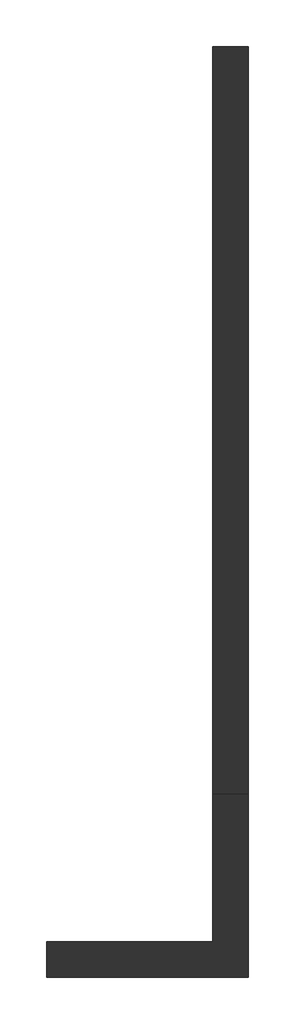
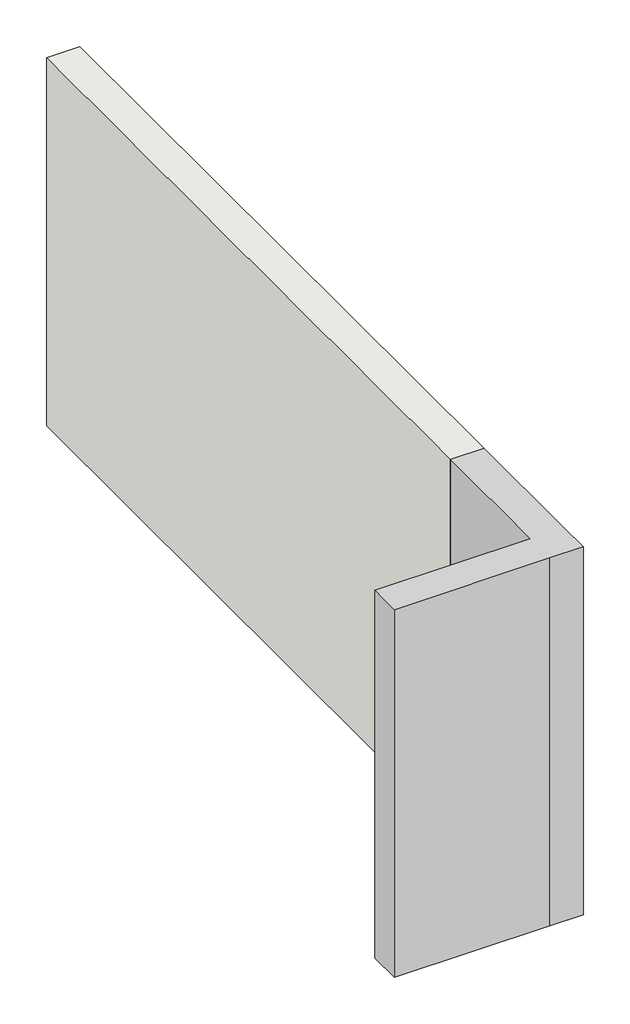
# One storey: 1 column, 1 wall.
"""IFC4 building model written with IfcOpenShell, lengths in millimetres."""

from ifc_helpers import new_model, si_unit, frame, origin, place, context, project, spatial, polyline, outline, extrude, transform, mapped, element, save
from components import ybz16_ybz16_38908f3c

model = new_model("IFC4")

# Units and contexts
model_context = context("Model", 3, world=origin())
ifc_project = project(units=[si_unit("LENGTHUNIT", "METRE", prefix="MILLI")], contexts=[model_context])

# Site, building, storey
site = spatial("IfcSite", under=ifc_project)
building = spatial("IfcBuilding", under=site)
storey = spatial("IfcBuildingStorey", under=building, Name="标高 2", Elevation=4000.0)

# Column
placement = place(None, origin())
ybz16_ybz16_shape = ybz16_ybz16_38908f3c(model_context)
element("IfcColumn", 1, ObjectType="YBZ16 : YBZ16", at=placement, inside=storey, context=model_context, shape_type="MappedRepresentation", body=[
    mapped(ybz16_ybz16_shape, transform((-6189.5250944, 720.3483192, 0.0), x_axis=(1.0, 0.0, 0.0), y_axis=(0.0, 1.0, 0.0), z_axis=(0.0, 0.0, 1.0))),
])

# Wall
element("IfcWall", 2, ObjectType="S-WQ1-300", at=placement, inside=storey, context=model_context, shape_type="SweptSolid", body=[
    extrude(outline(polyline([(-6189.5250944, 8570.3483195), (-6189.5250944, 2270.3483192), (-6489.5250944, 2270.3483192), (-6489.5250944, 8570.3483195), (-6189.5250944, 8570.3483195)])), frame((0.0, 0.0, 3200.0), z_axis=(0.0, 0.0, 1.0), x_axis=(1.0, 0.0, 0.0)), (0.0, 0.0, 1.0), 3500.0),
])

save(model, "model.ifc")
